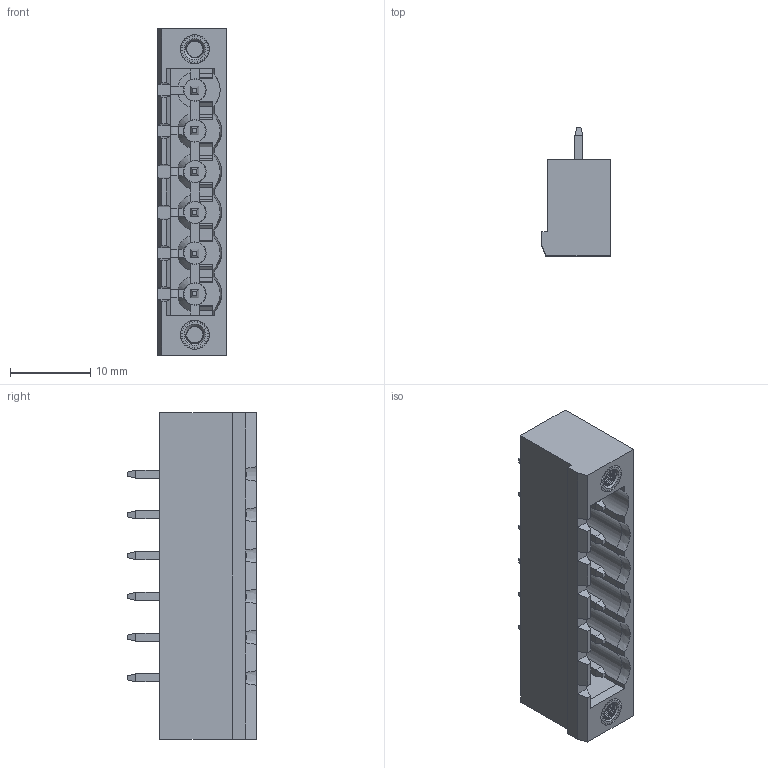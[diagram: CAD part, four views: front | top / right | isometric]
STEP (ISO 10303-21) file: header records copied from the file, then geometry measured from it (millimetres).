
FILE_DESCRIPTION(('STEP AP203'), '1');
FILE_NAME('WJ2EDGVM-5.08-06P', '', ('UNSPECIFIED'), ('UNSPECIFIED'), 'C3D Converter', 'C3D Toolkit', '');
FILE_SCHEMA(('CONFIG_CONTROL_DESIGN'));
Length unit declared in the file: millimetre
Products named in the file (2): KLR2GVM-5.08-06P
Assembly tree (1 placements, depth 2):
  KLR2GVM-5.08-06P
    KLR2GVM-5.08-06P
Bounding box: 8.5 x 16 x 40.64 mm (x, y, z)
Volume: 1912.8 mm3; surface area: 3770.3 mm2
Topology: 1 solids, 1 shells, 803 faces, 2322 edges, 1481 vertices
Faces by surface type: plane 607, cone 92, cylinder 62, bspline 36, sphere 6
Full cylindrical faces by diameter (mm): 1.75 x4
Entity records: 50505 total; most frequent: CARTESIAN_POINT 23830, ORIENTED_EDGE 4586, DIRECTION 3554, EDGE_CURVE 2293, LINE 1540, VECTOR 1540, VERTEX_POINT 1474, AXIS2_PLACEMENT_3D 1007
